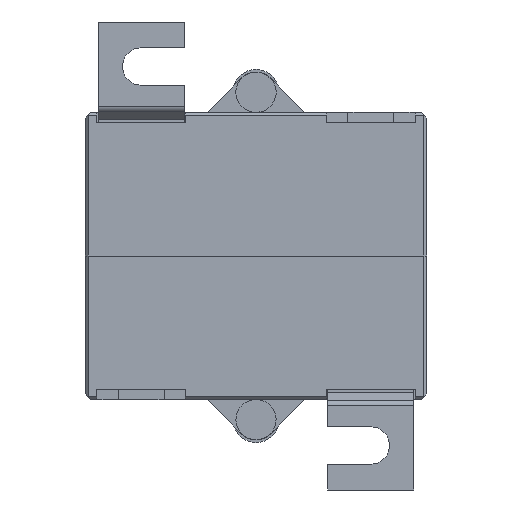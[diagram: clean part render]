
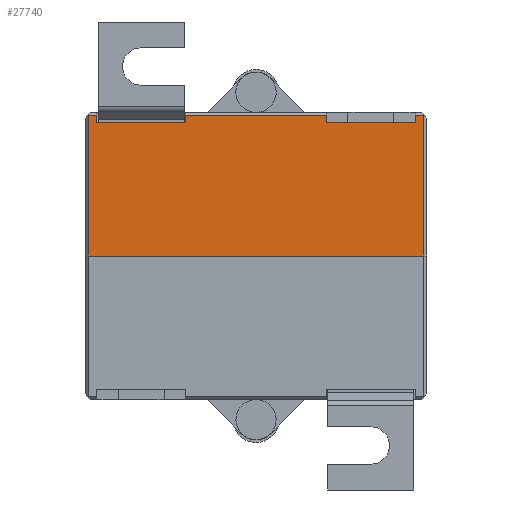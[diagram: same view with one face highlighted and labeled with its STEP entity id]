
A CAD part, front view. The second image highlights one B-rep face of the part: STEP entity #27740.
In plain terms, the highlighted planar face has unit normal (0, -1, 0).
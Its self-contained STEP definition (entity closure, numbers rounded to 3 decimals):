
#1584=PLANE('',#29599);
#2594=FACE_OUTER_BOUND('',#4127,.T.);
#4127=EDGE_LOOP('',(#19400,#19401,#19402,#19403,#19404,#19405,#19406,#19407,
#19408,#19409,#19410,#19411));
#6155=LINE('',#37349,#9201);
#6166=LINE('',#37383,#9212);
#6173=LINE('',#37397,#9219);
#6174=LINE('',#37399,#9220);
#6175=LINE('',#37401,#9221);
#6176=LINE('',#37403,#9222);
#6177=LINE('',#37405,#9223);
#6178=LINE('',#37407,#9224);
#6179=LINE('',#37409,#9225);
#6180=LINE('',#37411,#9226);
#6181=LINE('',#37413,#9227);
#6182=LINE('',#37414,#9228);
#9201=VECTOR('',#31282,10.);
#9212=VECTOR('',#31317,10.);
#9219=VECTOR('',#31328,10.);
#9220=VECTOR('',#31329,10.);
#9221=VECTOR('',#31330,10.);
#9222=VECTOR('',#31331,10.);
#9223=VECTOR('',#31332,10.);
#9224=VECTOR('',#31333,10.);
#9225=VECTOR('',#31334,10.);
#9226=VECTOR('',#31335,10.);
#9227=VECTOR('',#31336,10.);
#9228=VECTOR('',#31337,10.);
#12242=VERTEX_POINT('',#37291);
#12270=VERTEX_POINT('',#37347);
#12281=VERTEX_POINT('',#37382);
#12286=VERTEX_POINT('',#37396);
#12287=VERTEX_POINT('',#37398);
#12288=VERTEX_POINT('',#37400);
#12289=VERTEX_POINT('',#37402);
#12290=VERTEX_POINT('',#37404);
#12291=VERTEX_POINT('',#37406);
#12292=VERTEX_POINT('',#37408);
#12293=VERTEX_POINT('',#37410);
#12294=VERTEX_POINT('',#37412);
#15077=EDGE_CURVE('',#12270,#12242,#6155,.T.);
#15095=EDGE_CURVE('',#12242,#12281,#6166,.T.);
#15102=EDGE_CURVE('',#12286,#12270,#6173,.T.);
#15103=EDGE_CURVE('',#12287,#12286,#6174,.T.);
#15104=EDGE_CURVE('',#12287,#12288,#6175,.T.);
#15105=EDGE_CURVE('',#12288,#12289,#6176,.T.);
#15106=EDGE_CURVE('',#12289,#12290,#6177,.T.);
#15107=EDGE_CURVE('',#12291,#12290,#6178,.T.);
#15108=EDGE_CURVE('',#12291,#12292,#6179,.T.);
#15109=EDGE_CURVE('',#12292,#12293,#6180,.T.);
#15110=EDGE_CURVE('',#12293,#12294,#6181,.T.);
#15111=EDGE_CURVE('',#12281,#12294,#6182,.T.);
#19400=ORIENTED_EDGE('',*,*,#15095,.F.);
#19401=ORIENTED_EDGE('',*,*,#15077,.F.);
#19402=ORIENTED_EDGE('',*,*,#15102,.F.);
#19403=ORIENTED_EDGE('',*,*,#15103,.F.);
#19404=ORIENTED_EDGE('',*,*,#15104,.T.);
#19405=ORIENTED_EDGE('',*,*,#15105,.T.);
#19406=ORIENTED_EDGE('',*,*,#15106,.T.);
#19407=ORIENTED_EDGE('',*,*,#15107,.F.);
#19408=ORIENTED_EDGE('',*,*,#15108,.T.);
#19409=ORIENTED_EDGE('',*,*,#15109,.T.);
#19410=ORIENTED_EDGE('',*,*,#15110,.T.);
#19411=ORIENTED_EDGE('',*,*,#15111,.F.);
#27740=ADVANCED_FACE('',(#2594),#1584,.T.);
#29599=AXIS2_PLACEMENT_3D('',#37395,#31326,#31327);
#31282=DIRECTION('',(1.,0.,0.));
#31317=DIRECTION('',(0.,0.,-1.));
#31326=DIRECTION('center_axis',(0.,-1.,0.));
#31327=DIRECTION('ref_axis',(1.,0.,0.));
#31328=DIRECTION('',(0.,0.,1.));
#31329=DIRECTION('',(-1.,0.,0.));
#31330=DIRECTION('',(0.,0.,1.));
#31331=DIRECTION('',(1.,0.,0.));
#31332=DIRECTION('',(0.,0.,-1.));
#31333=DIRECTION('',(-1.,0.,0.));
#31334=DIRECTION('',(0.,0.,1.));
#31335=DIRECTION('',(1.,0.,0.));
#31336=DIRECTION('',(0.,0.,-1.));
#31337=DIRECTION('',(-1.,0.,0.));
#37291=CARTESIAN_POINT('',(29.25,0.,25.));
#37347=CARTESIAN_POINT('',(-29.25,0.,25.));
#37349=CARTESIAN_POINT('',(-29.75,0.,25.));
#37382=CARTESIAN_POINT('',(29.25,0.,0.5));
#37383=CARTESIAN_POINT('',(29.25,0.,0.));
#37395=CARTESIAN_POINT('Origin',(-29.75,0.,0.));
#37396=CARTESIAN_POINT('',(-29.25,0.,0.5));
#37397=CARTESIAN_POINT('',(-29.25,0.,0.));
#37398=CARTESIAN_POINT('',(-27.7,0.,0.5));
#37399=CARTESIAN_POINT('',(-14.875,0.,0.5));
#37400=CARTESIAN_POINT('',(-27.7,0.,1.8));
#37401=CARTESIAN_POINT('',(-27.7,0.,0.));
#37402=CARTESIAN_POINT('',(-12.3,0.,1.8));
#37403=CARTESIAN_POINT('',(-24.875,0.,1.8));
#37404=CARTESIAN_POINT('',(-12.3,0.,0.5));
#37405=CARTESIAN_POINT('',(-12.3,0.,0.));
#37406=CARTESIAN_POINT('',(12.3,0.,0.5));
#37407=CARTESIAN_POINT('',(-14.875,0.,0.5));
#37408=CARTESIAN_POINT('',(12.3,0.,1.8));
#37409=CARTESIAN_POINT('',(12.3,0.,0.));
#37410=CARTESIAN_POINT('',(27.7,0.,1.8));
#37411=CARTESIAN_POINT('',(-4.875,0.,1.8));
#37412=CARTESIAN_POINT('',(27.7,0.,0.5));
#37413=CARTESIAN_POINT('',(27.7,0.,0.));
#37414=CARTESIAN_POINT('',(-14.875,0.,0.5));
